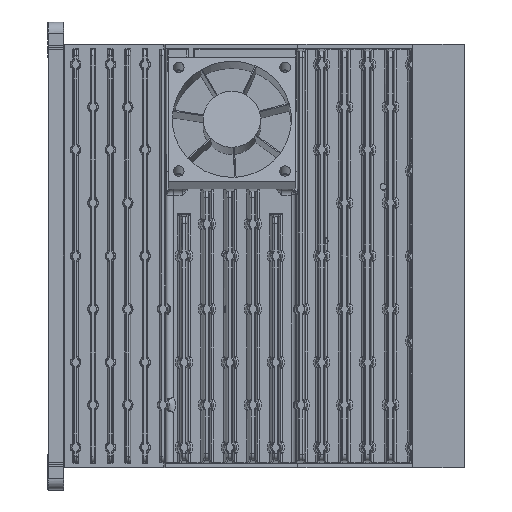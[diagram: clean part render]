
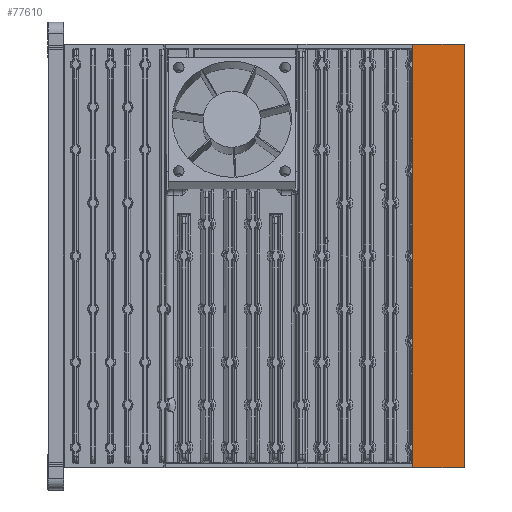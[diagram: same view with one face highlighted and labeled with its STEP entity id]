
A CAD part, front view. The second image highlights one B-rep face of the part: STEP entity #77610.
In plain terms, the highlighted planar face has unit normal (0, -1, 0).
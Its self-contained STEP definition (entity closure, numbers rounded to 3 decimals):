
#19055=DIRECTION('',(1.,0.,0.));
#19056=VECTOR('',#19055,24.23);
#19057=CARTESIAN_POINT('',(156.34,-40.4,99.5));
#19058=LINE('',#19057,#19056);
#20147=DIRECTION('',(1.,0.,0.));
#20148=VECTOR('',#20147,24.23);
#20149=CARTESIAN_POINT('',(156.34,-40.4,-99.5));
#20150=LINE('',#20149,#20148);
#21834=DIRECTION('',(0.,0.,1.));
#21835=VECTOR('',#21834,199.);
#21836=CARTESIAN_POINT('',(156.34,-40.4,-99.5));
#21837=LINE('',#21836,#21835);
#21838=DIRECTION('',(0.,0.,1.));
#21839=VECTOR('',#21838,199.);
#21840=CARTESIAN_POINT('',(180.57,-40.4,-99.5));
#21841=LINE('',#21840,#21839);
#39862=CARTESIAN_POINT('',(180.57,-40.4,-99.5));
#39864=VERTEX_POINT('',#39862);
#39875=CARTESIAN_POINT('',(156.34,-40.4,-99.5));
#39877=VERTEX_POINT('',#39875);
#39878=CARTESIAN_POINT('',(180.57,-40.4,99.5));
#39880=VERTEX_POINT('',#39878);
#39891=CARTESIAN_POINT('',(156.34,-40.4,99.5));
#39893=VERTEX_POINT('',#39891);
#77598=CARTESIAN_POINT('',(156.34,-40.4,-99.5));
#77599=DIRECTION('',(0.,-1.,0.));
#77600=DIRECTION('',(1.,0.,0.));
#77601=AXIS2_PLACEMENT_3D('',#77598,#77599,#77600);
#77602=PLANE('',#77601);
#77603=ORIENTED_EDGE('',*,*,#75744,.F.);
#77604=ORIENTED_EDGE('',*,*,#46747,.T.);
#77605=ORIENTED_EDGE('',*,*,#74893,.T.);
#77607=ORIENTED_EDGE('',*,*,#77606,.F.);
#77608=EDGE_LOOP('',(#77603,#77604,#77605,#77607));
#77609=FACE_OUTER_BOUND('',#77608,.F.);
#46747=EDGE_CURVE('',#39877,#39893,#21837,.T.);
#74893=EDGE_CURVE('',#39893,#39880,#19058,.T.);
#75744=EDGE_CURVE('',#39877,#39864,#20150,.T.);
#77606=EDGE_CURVE('',#39864,#39880,#21841,.T.);
#77610=ADVANCED_FACE('',(#77609),#77602,.T.);
